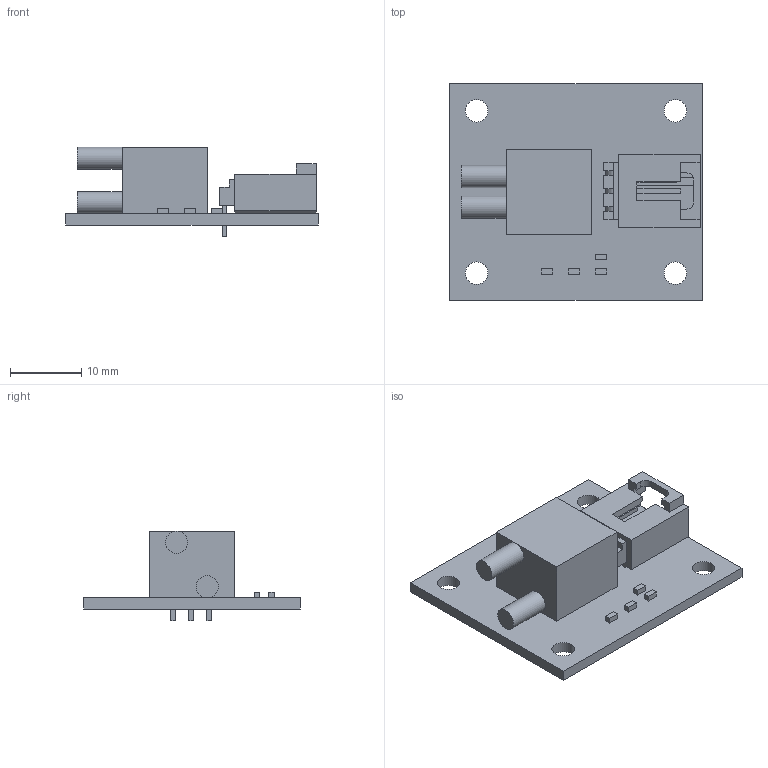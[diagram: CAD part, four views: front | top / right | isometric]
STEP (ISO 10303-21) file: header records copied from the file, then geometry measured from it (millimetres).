
FILE_DESCRIPTION(('Open CASCADE Model'),'2;1');
FILE_NAME('Open CASCADE Shape Model','2010-10-28T09:20:40',('Author'),( 'Open CASCADE'),'Open CASCADE STEP processor 6.2','Open CASCADE 6.2' ,'Unknown');
FILE_SCHEMA(('AUTOMOTIVE_DESIGN { 1 0 10303 214 1 1 1 1 }'));
Length unit declared in the file: millimetre
Products named in the file (19): PCB; Board; R1; 478789824; Extruded; C2; C1; J1; 705530002; Open CASCADE STEP translator 6.2 66.5.1.1; Open CASCADE STEP translator 6.2 66.5.1.2; C3; U1; 898128576; Cylinder; 898128688; 845317280
Assembly tree (21 placements, depth 4):
  PCB
    Board
    R1
      478789824
        Extruded
    C2
      478789824
        Extruded
    C1
      478789824
        Extruded
    J1
      705530002
        Open CASCADE STEP translator 6.2 66.5.1.1
        Open CASCADE STEP translator 6.2 66.5.1.2
    C3
      478789824
        Extruded
    U1
      898128576
        Cylinder
      898128688
        Cylinder
      845317280
        Extruded
Bounding box: 35.56 x 30.48 x 12.58 mm (x, y, z)
Volume: 3503.6 mm3; surface area: 4095.3 mm2
Topology: 9 solids, 9 shells, 162 faces, 413 edges, 280 vertices
Faces by surface type: plane 145, cylinder 17
Full cylindrical faces by diameter (mm): 0.965 x3, 3.12 x2, 3.175 x4
Entity records: 9555 total; most frequent: CARTESIAN_POINT 1631, DIRECTION 1439, LINE 1003, VECTOR 1003, ORIENTED_EDGE 736, PCURVE 736, DEFINITIONAL_REPRESENTATION 736, EDGE_CURVE 368
